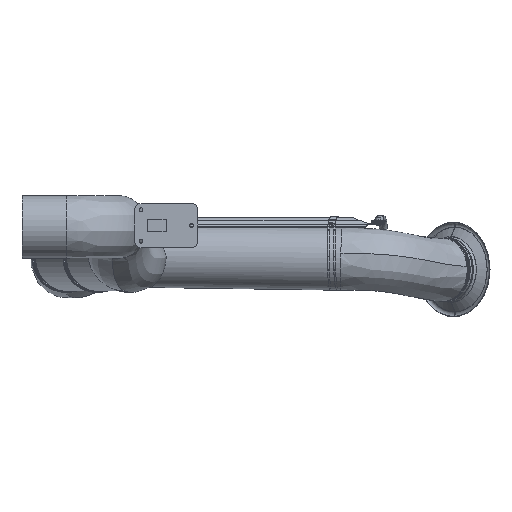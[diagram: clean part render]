
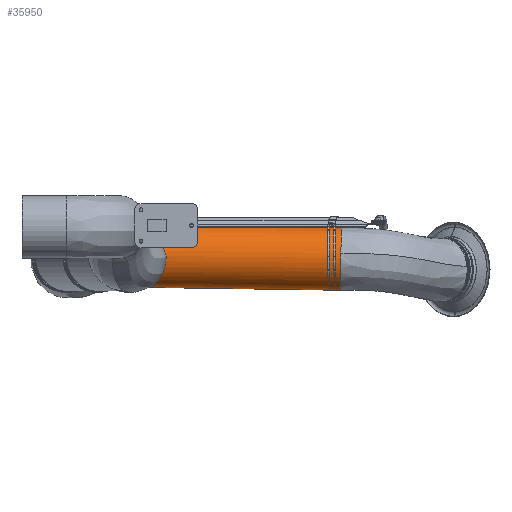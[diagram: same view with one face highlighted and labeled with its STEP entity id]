
A CAD part, left-side view. The second image highlights one B-rep face of the part: STEP entity #35950.
In plain terms, the highlighted free-form (B-spline) face has degree [3, 3] with [7, 6] control points.
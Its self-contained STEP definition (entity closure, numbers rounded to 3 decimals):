
#35012=CARTESIAN_POINT('',(1148.758,-582.328,
-201.489));
#35013=CARTESIAN_POINT('',(1148.758,-501.995,
-200.323));
#35014=CARTESIAN_POINT('',(1148.758,-341.328,
-197.989));
#35015=CARTESIAN_POINT('',(1148.758,-100.328,
-194.489));
#35016=CARTESIAN_POINT('',(1148.758,60.339,
-192.156));
#35017=CARTESIAN_POINT('',(1148.758,140.672,
-190.989));
#35022=CARTESIAN_POINT('',(1148.758,-583.78,-101.5));
#35023=DIRECTION('',(0.,-1.,-0.015));
#35024=DIRECTION('',(0.,-0.015,1.));
#35025=AXIS2_PLACEMENT_3D('',#35022,#35023,#35024);
#35030=CARTESIAN_POINT('',(1148.758,-583.78,-101.5));
#35031=DIRECTION('',(0.,-1.,-0.015));
#35032=DIRECTION('',(-0.983,-0.003,0.181));
#35033=AXIS2_PLACEMENT_3D('',#35030,#35031,#35032);
#35054=CARTESIAN_POINT('',(1148.758,-585.232,
-1.511));
#35055=CARTESIAN_POINT('',(1148.758,-504.899,
-0.344));
#35056=CARTESIAN_POINT('',(1148.758,-344.232,
1.989));
#35057=CARTESIAN_POINT('',(1148.758,-103.232,
5.489));
#35058=CARTESIAN_POINT('',(1148.758,57.434,7.823));
#35059=CARTESIAN_POINT('',(1148.758,137.768,8.989));
#35335=CARTESIAN_POINT('',(1148.758,139.22,-91.));
#35336=DIRECTION('',(0.,1.,0.015));
#35337=DIRECTION('',(0.,0.015,-1.));
#35338=AXIS2_PLACEMENT_3D('',#35335,#35336,#35337);
#35855=CARTESIAN_POINT('',(1148.758,140.672,
-190.989));
#35856=CARTESIAN_POINT('',(1148.758,137.768,8.989));
#35857=VERTEX_POINT('',#35855);
#35858=VERTEX_POINT('',#35856);
#35881=VERTEX_POINT('',#35012);
#35882=VERTEX_POINT('',#35054);
#35891=CARTESIAN_POINT('',(1050.416,-584.043,
-83.368));
#35892=VERTEX_POINT('',#35891);
#35895=CARTESIAN_POINT('',(1155.037,-596.791,
-201.502));
#35896=CARTESIAN_POINT('',(1155.037,-591.971,
-201.432));
#35897=CARTESIAN_POINT('',(1155.037,-346.151,
-197.862));
#35898=CARTESIAN_POINT('',(1155.037,-95.511,
-194.222));
#35899=CARTESIAN_POINT('',(1155.037,150.309,
-190.652));
#35900=CARTESIAN_POINT('',(1155.037,155.129,
-190.582));
#35901=CARTESIAN_POINT('',(1093.619,-596.735,
-205.366));
#35902=CARTESIAN_POINT('',(1093.619,-591.915,
-205.296));
#35903=CARTESIAN_POINT('',(1093.619,-346.095,
-201.726));
#35904=CARTESIAN_POINT('',(1093.619,-95.455,
-198.086));
#35905=CARTESIAN_POINT('',(1093.619,150.365,
-194.516));
#35906=CARTESIAN_POINT('',(1093.619,155.185,
-194.446));
#35907=CARTESIAN_POINT('',(1048.758,-597.346,
-163.243));
#35908=CARTESIAN_POINT('',(1048.758,-592.526,
-163.173));
#35909=CARTESIAN_POINT('',(1048.758,-346.706,
-159.603));
#35910=CARTESIAN_POINT('',(1048.758,-96.066,
-155.963));
#35911=CARTESIAN_POINT('',(1048.758,149.754,
-152.393));
#35912=CARTESIAN_POINT('',(1048.758,154.574,
-152.323));
#35913=CARTESIAN_POINT('',(1048.758,-598.24,-101.71));
#35914=CARTESIAN_POINT('',(1048.758,-593.42,-101.64));
#35915=CARTESIAN_POINT('',(1048.758,-347.6,-98.07));
#35916=CARTESIAN_POINT('',(1048.758,-96.96,-94.43));
#35917=CARTESIAN_POINT('',(1048.758,148.86,-90.86));
#35918=CARTESIAN_POINT('',(1048.758,153.68,-90.79));
#35919=CARTESIAN_POINT('',(1048.758,-599.134,
-40.177));
#35920=CARTESIAN_POINT('',(1048.758,-594.314,
-40.107));
#35921=CARTESIAN_POINT('',(1048.758,-348.494,
-36.537));
#35922=CARTESIAN_POINT('',(1048.758,-97.854,
-32.897));
#35923=CARTESIAN_POINT('',(1048.758,147.966,
-29.327));
#35924=CARTESIAN_POINT('',(1048.758,152.786,
-29.257));
#35925=CARTESIAN_POINT('',(1093.619,-599.745,
1.946));
#35926=CARTESIAN_POINT('',(1093.619,-594.925,
2.016));
#35927=CARTESIAN_POINT('',(1093.619,-349.105,
5.586));
#35928=CARTESIAN_POINT('',(1093.619,-98.465,
9.226));
#35929=CARTESIAN_POINT('',(1093.619,147.355,12.796));
#35930=CARTESIAN_POINT('',(1093.619,152.175,12.866));
#35931=CARTESIAN_POINT('',(1155.037,-599.689,
-1.918));
#35932=CARTESIAN_POINT('',(1155.037,-594.869,
-1.848));
#35933=CARTESIAN_POINT('',(1155.037,-349.049,
1.722));
#35934=CARTESIAN_POINT('',(1155.037,-98.409,
5.362));
#35935=CARTESIAN_POINT('',(1155.037,147.411,8.932));
#35936=CARTESIAN_POINT('',(1155.037,152.231,9.002));
#35937=(BOUNDED_SURFACE()B_SPLINE_SURFACE(3,3,((#35895,#35896,#35897,#35898,
#35899,#35900),(#35901,#35902,#35903,#35904,#35905,#35906),(#35907,#35908,
#35909,#35910,#35911,#35912),(#35913,#35914,#35915,#35916,#35917,#35918),
(#35919,#35920,#35921,#35922,#35923,#35924),(#35925,#35926,#35927,#35928,#35929,
#35930),(#35931,#35932,#35933,#35934,#35935,#35936)),.UNSPECIFIED.,.F.,.F.,.F.)B_SPLINE_SURFACE_WITH_KNOTS((4,3,4),(4,1,1,4),(0.,1.,2.),(-0.02,0.,1.,
1.02),.UNSPECIFIED.)GEOMETRIC_REPRESENTATION_ITEM()RATIONAL_B_SPLINE_SURFACE((
(1.187,1.187,1.187,1.187,
1.187,1.187),(0.938,0.938,
0.938,0.938,0.938,0.938),(
0.938,0.938,0.938,0.938,
0.938,0.938),(1.187,1.187,
1.187,1.187,1.187,1.187),(
0.938,0.938,0.938,0.938,
0.938,0.938),(0.938,0.938,
0.938,0.938,0.938,0.938),(
1.187,1.187,1.187,1.187,
1.187,1.187)))REPRESENTATION_ITEM('')SURFACE());
#35939=ORIENTED_EDGE('',*,*,#35938,.T.);
#35941=ORIENTED_EDGE('',*,*,#35940,.T.);
#35943=ORIENTED_EDGE('',*,*,#35942,.F.);
#35945=ORIENTED_EDGE('',*,*,#35944,.T.);
#35947=ORIENTED_EDGE('',*,*,#35946,.T.);
#35948=EDGE_LOOP('',(#35939,#35941,#35943,#35945,#35947));
#35949=FACE_OUTER_BOUND('',#35948,.F.);
#35018=B_SPLINE_CURVE_WITH_KNOTS('',3,(#35012,#35013,#35014,#35015,#35016,
#35017),.UNSPECIFIED.,.F.,.F.,(4,1,1,4),(0.,0.333,
0.667,1.),.UNSPECIFIED.);
#35026=CIRCLE('',#35025,100.);
#35034=CIRCLE('',#35033,100.);
#35060=B_SPLINE_CURVE_WITH_KNOTS('',3,(#35054,#35055,#35056,#35057,#35058,
#35059),.UNSPECIFIED.,.F.,.F.,(4,1,1,4),(0.,0.333,
0.667,1.),.UNSPECIFIED.);
#35339=CIRCLE('',#35338,100.);
#35938=EDGE_CURVE('',#35881,#35857,#35018,.T.);
#35940=EDGE_CURVE('',#35857,#35858,#35339,.T.);
#35942=EDGE_CURVE('',#35882,#35858,#35060,.T.);
#35944=EDGE_CURVE('',#35882,#35892,#35026,.T.);
#35946=EDGE_CURVE('',#35892,#35881,#35034,.T.);
#35950=ADVANCED_FACE('',(#35949),#35937,.T.);
